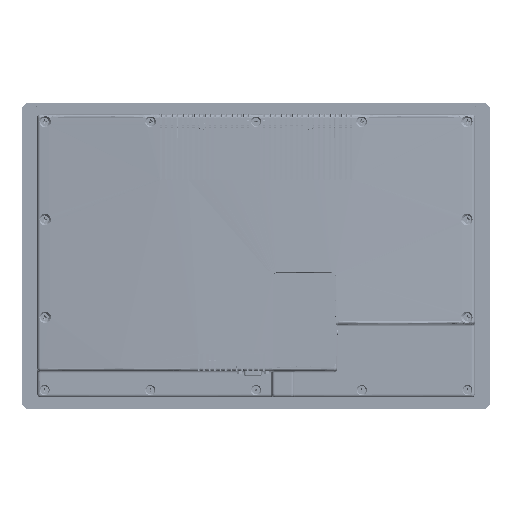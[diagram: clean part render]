
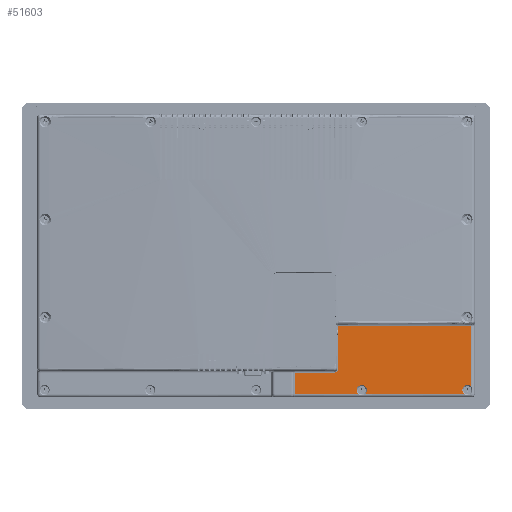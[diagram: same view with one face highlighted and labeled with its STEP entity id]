
A CAD part, top view. The second image highlights one B-rep face of the part: STEP entity #51603.
In plain terms, the highlighted planar face has unit normal (0, 0, 1).
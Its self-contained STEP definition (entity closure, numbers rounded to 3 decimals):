
#3833 = CARTESIAN_POINT ( 'NONE',  ( 119.223, -120.353, -11.389 ) ) ;
#5231 = VERTEX_POINT ( 'NONE', #3833 ) ;
#5971 = DIRECTION ( 'NONE',  ( 1., 0., 0. ) ) ;
#10589 = VECTOR ( 'NONE', #19666, 1000. ) ;
#19239 = EDGE_CURVE ( 'NONE', #118844, #5231, #246838, .T. ) ;
#19666 = DIRECTION ( 'NONE',  ( 0., -1., 0. ) ) ;
#19903 = AXIS2_PLACEMENT_3D ( 'NONE', #80187, #236475, #55874 ) ;
#20464 = DIRECTION ( 'NONE',  ( 0., 0., 1. ) ) ;
#20568 = EDGE_CURVE ( 'NONE', #206677, #192624, #110402, .T. ) ;
#21064 = VERTEX_POINT ( 'NONE', #162887 ) ;
#22506 = AXIS2_PLACEMENT_3D ( 'NONE', #125990, #214945, #173276 ) ;
#25963 = CARTESIAN_POINT ( 'NONE',  ( 61.034, -100.505, -11.389 ) ) ;
#26630 = ORIENTED_EDGE ( 'NONE', *, *, #83085, .F. ) ;
#30382 = LINE ( 'NONE', #142004, #38070 ) ;
#31130 = FACE_OUTER_BOUND ( 'NONE', #76448, .T. ) ;
#34612 = VERTEX_POINT ( 'NONE', #81164 ) ;
#35465 = EDGE_CURVE ( 'NONE', #233108, #130151, #207548, .T. ) ;
#36171 = DIRECTION ( 'NONE',  ( -1., 0., 0. ) ) ;
#37259 = AXIS2_PLACEMENT_3D ( 'NONE', #165327, #209795, #82060 ) ;
#38070 = VECTOR ( 'NONE', #5971, 1000. ) ;
#38115 = VERTEX_POINT ( 'NONE', #185326 ) ;
#45987 = LINE ( 'NONE', #25963, #265110 ) ;
#48317 = DIRECTION ( 'NONE',  ( 1., 0., 0. ) ) ;
#51603 = ADVANCED_FACE ( 'Face83', ( #31130 ), #94074, .F. ) ;
#55874 = DIRECTION ( 'NONE',  ( 1., 0., 0. ) ) ;
#56309 = VECTOR ( 'NONE', #64663, 1000. ) ;
#64271 = EDGE_CURVE ( 'NONE', #38115, #21064, #235618, .T. ) ;
#64663 = DIRECTION ( 'NONE',  ( 1., 0., 0. ) ) ;
#70592 = ORIENTED_EDGE ( 'NONE', *, *, #242120, .T. ) ;
#73732 = CIRCLE ( 'NONE', #174487, 4.7 ) ;
#74860 = LINE ( 'NONE', #209613, #246614 ) ;
#76448 = EDGE_LOOP ( 'NONE', ( #273442, #196173, #26630, #117397, #253178, #97764, #118309, #138677, #151037, #70592, #256327, #262527, #122689 ) ) ;
#76781 = CIRCLE ( 'NONE', #150000, 4. ) ;
#79815 = VERTEX_POINT ( 'NONE', #156877 ) ;
#80187 = CARTESIAN_POINT ( 'NONE',  ( 122.057, -116.603, -11.389 ) ) ;
#81164 = CARTESIAN_POINT ( 'NONE',  ( 61.034, -120.353, -11.389 ) ) ;
#82060 = DIRECTION ( 'NONE',  ( 1., 0., 0. ) ) ;
#83085 = EDGE_CURVE ( 'NONE', #130151, #118844, #151982, .T. ) ;
#90795 = LINE ( 'NONE', #181200, #220162 ) ;
#94074 = PLANE ( 'NONE',  #159071 ) ;
#97764 = ORIENTED_EDGE ( 'NONE', *, *, #207186, .F. ) ;
#108232 = CARTESIAN_POINT ( 'NONE',  ( 222.932, -113.769, -11.389 ) ) ;
#110402 = CIRCLE ( 'NONE', #37259, 4.7 ) ;
#110469 = CARTESIAN_POINT ( 'NONE',  ( 100.532, -96.505, -11.389 ) ) ;
#111768 = CARTESIAN_POINT ( 'NONE',  ( 61.034, -100.505, -11.389 ) ) ;
#114999 = CARTESIAN_POINT ( 'NONE',  ( 219.182, -116.603, -11.389 ) ) ;
#117397 = ORIENTED_EDGE ( 'NONE', *, *, #35465, .F. ) ;
#118309 = ORIENTED_EDGE ( 'NONE', *, *, #20568, .F. ) ;
#118445 = CARTESIAN_POINT ( 'NONE',  ( 100.432, -100.089, -11.389 ) ) ;
#118844 = VERTEX_POINT ( 'NONE', #130684 ) ;
#122689 = ORIENTED_EDGE ( 'NONE', *, *, #226910, .T. ) ;
#125990 = CARTESIAN_POINT ( 'NONE',  ( 122.057, -116.603, -11.389 ) ) ;
#126548 = CARTESIAN_POINT ( 'NONE',  ( 225.932, -57.592, -11.389 ) ) ;
#129090 = AXIS2_PLACEMENT_3D ( 'NONE', #216874, #20464, #195331 ) ;
#130151 = VERTEX_POINT ( 'NONE', #280299 ) ;
#130368 = EDGE_CURVE ( 'NONE', #79815, #170920, #45987, .T. ) ;
#130684 = CARTESIAN_POINT ( 'NONE',  ( 117.357, -116.603, -11.389 ) ) ;
#138677 = ORIENTED_EDGE ( 'NONE', *, *, #196414, .T. ) ;
#142004 = CARTESIAN_POINT ( 'NONE',  ( 100.432, -120.353, -11.389 ) ) ;
#142575 = EDGE_CURVE ( 'NONE', #233108, #196127, #30382, .T. ) ;
#148110 = EDGE_CURVE ( 'NONE', #185221, #79815, #76781, .T. ) ;
#150000 = AXIS2_PLACEMENT_3D ( 'NONE', #256911, #232579, #36171 ) ;
#151037 = ORIENTED_EDGE ( 'NONE', *, *, #64271, .F. ) ;
#151982 = CIRCLE ( 'NONE', #129090, 4.7 ) ;
#156877 = CARTESIAN_POINT ( 'NONE',  ( 96.532, -100.505, -11.389 ) ) ;
#159071 = AXIS2_PLACEMENT_3D ( 'NONE', #118445, #184504, #48317 ) ;
#160256 = CARTESIAN_POINT ( 'NONE',  ( 214.482, -116.603, -11.389 ) ) ;
#162887 = CARTESIAN_POINT ( 'NONE',  ( 222.932, -57.592, -11.389 ) ) ;
#165327 = CARTESIAN_POINT ( 'NONE',  ( 219.182, -116.603, -11.389 ) ) ;
#170920 = VERTEX_POINT ( 'NONE', #111768 ) ;
#173276 = DIRECTION ( 'NONE',  ( 1., 0., 0. ) ) ;
#174487 = AXIS2_PLACEMENT_3D ( 'NONE', #114999, #185237, #226838 ) ;
#176475 = DIRECTION ( 'NONE',  ( -1., 0., 0. ) ) ;
#178373 = DIRECTION ( 'NONE',  ( 0., -1., 0. ) ) ;
#181200 = CARTESIAN_POINT ( 'NONE',  ( 61.034, -120.353, -11.389 ) ) ;
#184504 = DIRECTION ( 'NONE',  ( 0., 0., -1. ) ) ;
#185221 = VERTEX_POINT ( 'NONE', #110469 ) ;
#185237 = DIRECTION ( 'NONE',  ( 0., 0., 1. ) ) ;
#185326 = CARTESIAN_POINT ( 'NONE',  ( 100.532, -57.592, -11.389 ) ) ;
#192426 = CARTESIAN_POINT ( 'NONE',  ( 100.432, -120.353, -11.389 ) ) ;
#192599 = DIRECTION ( 'NONE',  ( 1., 0., 0. ) ) ;
#192624 = VERTEX_POINT ( 'NONE', #160256 ) ;
#195331 = DIRECTION ( 'NONE',  ( 1., 0., 0. ) ) ;
#196127 = VERTEX_POINT ( 'NONE', #212803 ) ;
#196173 = ORIENTED_EDGE ( 'NONE', *, *, #19239, .F. ) ;
#196414 = EDGE_CURVE ( 'NONE', #206677, #21064, #74860, .T. ) ;
#206677 = VERTEX_POINT ( 'NONE', #108232 ) ;
#207186 = EDGE_CURVE ( 'NONE', #192624, #196127, #73732, .T. ) ;
#207548 = CIRCLE ( 'NONE', #19903, 4.7 ) ;
#209613 = CARTESIAN_POINT ( 'NONE',  ( 222.932, -100.089, -11.389 ) ) ;
#209795 = DIRECTION ( 'NONE',  ( 0., 0., 1. ) ) ;
#212803 = CARTESIAN_POINT ( 'NONE',  ( 216.348, -120.353, -11.389 ) ) ;
#214945 = DIRECTION ( 'NONE',  ( 0., 0., 1. ) ) ;
#216874 = CARTESIAN_POINT ( 'NONE',  ( 122.057, -116.603, -11.389 ) ) ;
#220162 = VECTOR ( 'NONE', #178373, 1000. ) ;
#226838 = DIRECTION ( 'NONE',  ( 1., 0., 0. ) ) ;
#226910 = EDGE_CURVE ( 'NONE', #170920, #34612, #90795, .T. ) ;
#228302 = DIRECTION ( 'NONE',  ( 0., 1., 0. ) ) ;
#231972 = CARTESIAN_POINT ( 'NONE',  ( 124.89, -120.353, -11.389 ) ) ;
#232579 = DIRECTION ( 'NONE',  ( 0., 0., -1. ) ) ;
#233108 = VERTEX_POINT ( 'NONE', #231972 ) ;
#235618 = LINE ( 'NONE', #126548, #252835 ) ;
#236475 = DIRECTION ( 'NONE',  ( 0., 0., 1. ) ) ;
#242120 = EDGE_CURVE ( 'NONE', #38115, #185221, #273526, .T. ) ;
#246614 = VECTOR ( 'NONE', #228302, 1000. ) ;
#246838 = CIRCLE ( 'NONE', #22506, 4.7 ) ;
#252835 = VECTOR ( 'NONE', #192599, 1000. ) ;
#253178 = ORIENTED_EDGE ( 'NONE', *, *, #142575, .T. ) ;
#256327 = ORIENTED_EDGE ( 'NONE', *, *, #148110, .T. ) ;
#256911 = CARTESIAN_POINT ( 'NONE',  ( 96.532, -96.505, -11.389 ) ) ;
#258356 = LINE ( 'NONE', #192426, #56309 ) ;
#261187 = EDGE_CURVE ( 'NONE', #34612, #5231, #258356, .T. ) ;
#262527 = ORIENTED_EDGE ( 'NONE', *, *, #130368, .T. ) ;
#265110 = VECTOR ( 'NONE', #176475, 1000. ) ;
#273442 = ORIENTED_EDGE ( 'NONE', *, *, #261187, .T. ) ;
#273526 = LINE ( 'NONE', #280605, #10589 ) ;
#280299 = CARTESIAN_POINT ( 'NONE',  ( 126.757, -116.603, -11.389 ) ) ;
#280605 = CARTESIAN_POINT ( 'NONE',  ( 100.532, -96.505, -11.389 ) ) ;
